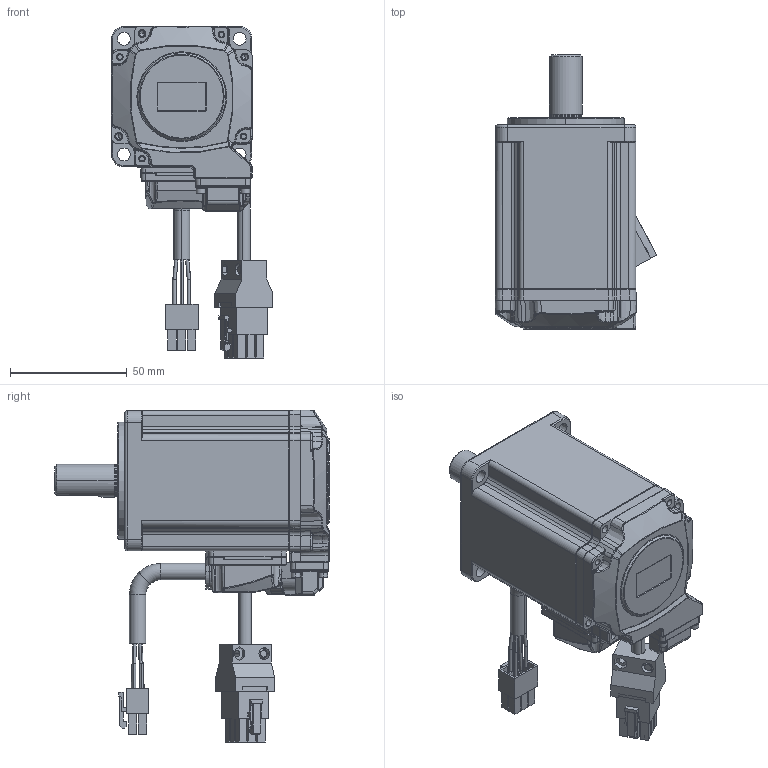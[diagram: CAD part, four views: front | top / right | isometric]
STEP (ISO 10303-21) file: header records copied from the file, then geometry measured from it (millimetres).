
FILE_DESCRIPTION((''),'2;1');
FILE_NAME('ECM-B3H-C20604RS1_V01_SW0001','2022-08-17T15:09:22',('KUAN.WEI.SHIH'),(''),'CREO PARAMETRIC BY PTC INC, 2020454','CREO PARAMETRIC BY PTC INC, 2020454','');
FILE_SCHEMA(('CONFIG_CONTROL_DESIGN'));
Products named in the file (1): ECM-B3H-C20604RS1_V01_SW0001
Bounding box: 69.27 x 117.45 x 142.1 mm (x, y, z)
Volume: 307271.8 mm3; surface area: 58355.1 mm2
Topology: 2 solids, 24 shells, 2503 faces, 6220 edges, 3826 vertices
Faces by surface type: plane 974, cylinder 534, bspline 491, cone 269, torus 220, sphere 15
Entity records: 102046 total; most frequent: CARTESIAN_POINT 46585, ORIENTED_EDGE 12378, DIRECTION 10320, EDGE_CURVE 6189, VERTEX_POINT 3826, AXIS2_PLACEMENT_3D 3719, VECTOR 2882, LINE 2882
